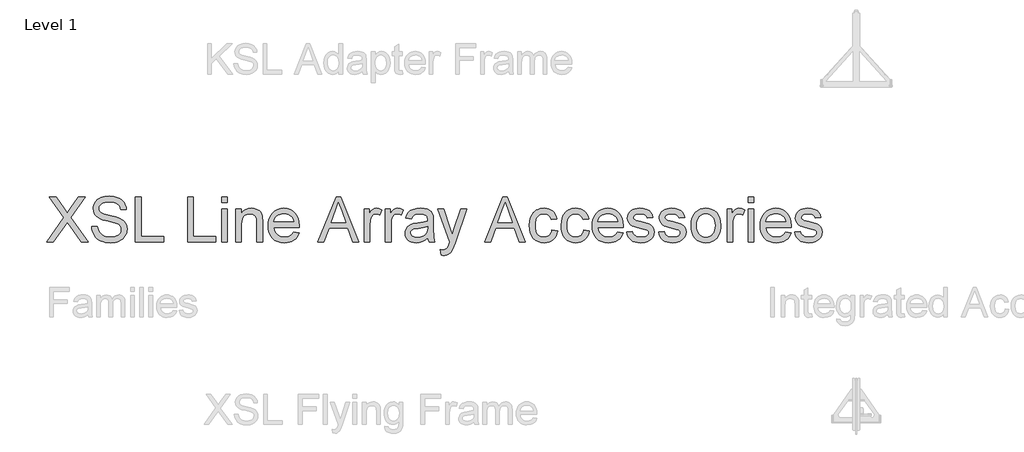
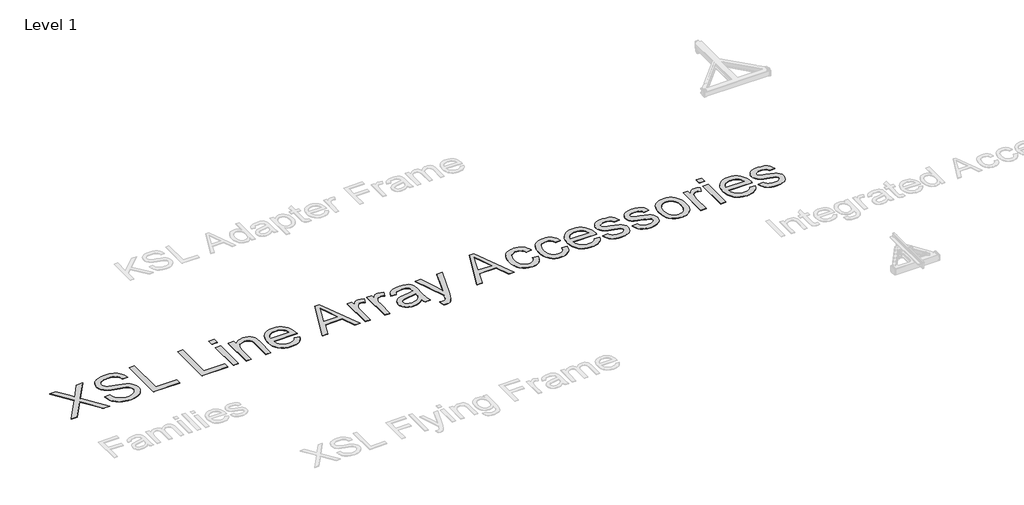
# One storey, part 16 of 52: 1 proxy.
"""IFC4 building model written with IfcOpenShell, lengths in millimetres."""

from ifc_helpers import new_model, si_unit, origin, origin_with_axes, place, context, project, spatial, polyline, outline, extrude, element, save

model = new_model("IFC4")

# Units and contexts
model_context = context("Model", 3, world=origin())
ifc_project = project(units=[si_unit("LENGTHUNIT", "METRE", prefix="MILLI")], contexts=[model_context])

# Site, building, storey
site = spatial("IfcSite", under=ifc_project)
building = spatial("IfcBuilding", under=site)
storey = spatial("IfcBuildingStorey", under=building, Name="Level 1", Elevation=0.0)

# Proxy
placement = place(None, origin())
element("IfcBuildingElementProxy", 1, Name="600mm Arial", ObjectType="600mm Arial", at=placement, inside=storey, context=model_context, shape_type="SweptSolid", body=[
    extrude(outline(polyline([(-21099.5693759, -60267.5695164), (-20867.2151077, -59939.1244711), (-21061.8982596, -59664.8316555), (-20971.5464416, -59664.8316555), (-20861.917607, -59819.1949407), (-20835.7611971, -59858.3007968), (-20824.9822547, -59879.3804351), (-20781.719332, -59818.1648711), (-20673.2677199, -59664.8316555), (-20581.5915267, -59664.8316555), (-20776.2746785, -59940.0073879), (-20543.9204104, -60267.5695164), (-20634.2722284, -60267.5695164), (-20789.076972, -60049.1947641), (-20821.3034347, -60003.8717023), (-20856.7672591, -60053.609348), (-21007.8931827, -60267.5695164), (-21099.5693759, -60267.5695164)])), origin_with_axes(), (0.0, 0.0, 1.0), 5.0),
    extrude(outline(polyline([(-20496.831515, -60060.3783767), (-20421.4892824, -60060.3783767), (-20412.8440555, -60102.1881655), (-20397.2090707, -60135.7941858), (-20372.8184944, -60162.4656304), (-20337.9064931, -60183.4716923), (-20295.2321816, -60197.1017203), (-20247.5546751, -60201.6450629), (-20205.5793394, -60198.2053662), (-20168.8279281, -60187.8862763), (-20139.0478806, -60171.5523157), (-20117.9866364, -60150.0680072), (-20105.4602544, -60125.4015194), (-20101.2847938, -60099.521021), (-20104.4117907, -60074.3027103), (-20113.7927816, -60052.505702), (-20132.849069, -60033.9092672), (-20165.0019553, -60018.2926765), (-20274.7043663, -59989.5243045), (-20346.7172669, -59970.4864112), (-20392.7944867, -59952.368223), (-20430.3000562, -59927.0211535), (-20456.8795303, -59896.3030069), (-20472.7168502, -59860.8759708), (-20477.9959568, -59821.4022327), (-20476.3634805, -59798.9660295), (-20471.4660514, -59777.2747874), (-20463.3036696, -59756.3285063), (-20451.8763352, -59736.1271862), (-20437.3128067, -59717.4939631), (-20419.7418429, -59701.2519731), (-20399.1634438, -59687.4012159), (-20375.5776094, -59675.9416918), (-20322.5658139, -59660.5458303), (-20263.8886356, -59655.4138765), (-20200.3186269, -59660.7849536), (-20144.6948692, -59676.898185), (-20120.3594752, -59688.9003351), (-20099.0039254, -59703.4224768), (-20080.6282197, -59720.4646103), (-20065.2323582, -59740.0267353), (-20052.9359026, -59761.538635), (-20043.8584143, -59784.4300922), (-20037.9998935, -59808.7011068), (-20035.3603402, -59834.3516789), (-20110.7025728, -59834.3516789), (-20115.7425562, -59810.3105905), (-20124.5349359, -59789.3964991), (-20137.0797119, -59771.6094046), (-20153.3768843, -59756.9493071), (-20173.7299557, -59745.489783), (-20198.4424287, -59737.3044086), (-20227.5143034, -59732.3931839), (-20260.9455797, -59730.7561091), (-20295.4437138, -59732.3747898), (-20324.9202586, -59737.2308322), (-20349.3752143, -59745.3242361), (-20368.8085807, -59756.6550015), (-20383.615831, -59770.2758324), (-20394.1924383, -59785.2394326), (-20400.5384027, -59801.545802), (-20402.6537242, -59819.1949407), (-20401.1546051, -59834.3792701), (-20396.6572477, -59848.1472537), (-20389.161652, -59860.4988917), (-20378.6678181, -59871.434184), (-20362.1499165, -59881.7900622), (-20336.1406595, -59892.2563049), (-20255.6480789, -59913.5198843), (-20172.5803244, -59933.7166058), (-20122.3276439, -59951.3381534), (-20079.377421, -59978.6717856), (-20062.7721474, -59994.7390318), (-20049.4134324, -60012.4065646), (-20039.1449263, -60031.5824136), (-20031.810279, -60052.1746083), (-20025.9425612, -60097.6080347), (-20027.6302198, -60121.175475), (-20032.6931958, -60144.0531365), (-20041.131489, -60166.2410194), (-20052.9450996, -60187.7391235), (-20067.9270939, -60207.7151158), (-20085.8705382, -60225.3366634), (-20106.7754325, -60240.6037662), (-20130.641777, -60253.5164242), (-20156.7751942, -60263.7849304), (-20184.481307, -60271.1195777), (-20244.6116191, -60276.9872955), (-20283.1518566, -60275.4054029), (-20318.4271414, -60270.6597252), (-20350.4374735, -60262.7502623), (-20379.1828529, -60251.6770142), (-20404.8380236, -60237.4215869), (-20427.5777294, -60219.9655863), (-20447.4019704, -60199.3090122), (-20464.3107466, -60175.4518648), (-20477.9315775, -60149.1666963), (-20487.8919825, -60121.2260587), (-20494.1919617, -60091.6299522), (-20496.831515, -60060.3783767)])), origin_with_axes(), (0.0, 0.0, 1.0), 5.0),
    extrude(outline(polyline([(-19912.9292122, -60267.5695164), (-19912.9292122, -59664.8316555), (-19837.5869796, -59664.8316555), (-19837.5869796, -60192.2272838), (-19536.2180492, -60192.2272838), (-19536.2180492, -60267.5695164), (-19912.9292122, -60267.5695164)])), origin_with_axes(), (0.0, 0.0, 1.0), 5.0),
    extrude(outline(polyline([(-19216.0135606, -60267.5695164), (-19216.0135606, -59664.8316555), (-19140.671328, -59664.8316555), (-19140.671328, -60192.2272838), (-18839.3023975, -60192.2272838), (-18839.3023975, -60267.5695164), (-19216.0135606, -60267.5695164)])), origin_with_axes(), (0.0, 0.0, 1.0), 5.0),
    extrude(outline(polyline([(-18763.9601649, -59740.1738881), (-18763.9601649, -59664.8316555), (-18688.6179323, -59664.8316555), (-18688.6179323, -59740.1738881), (-18763.9601649, -59740.1738881)])), origin_with_axes(), (0.0, 0.0, 1.0), 5.0),
    extrude(outline(polyline([(-18763.9601649, -60267.5695164), (-18763.9601649, -59824.9338998), (-18688.6179323, -59824.9338998), (-18688.6179323, -60267.5695164), (-18763.9601649, -60267.5695164)])), origin_with_axes(), (0.0, 0.0, 1.0), 5.0),
    extrude(outline(polyline([(-18575.6045834, -60267.5695164), (-18575.6045834, -59824.9338998), (-18500.2623508, -59824.9338998), (-18500.2623508, -59886.738075), (-18474.0875468, -59855.57847), (-18442.6520303, -59833.3216093), (-18405.9558013, -59819.9674929), (-18363.9988597, -59815.5161208), (-18326.8611723, -59819.1029702), (-18292.8504819, -59829.8635186), (-18264.4867801, -59846.4549965), (-18244.2900585, -59867.5346349), (-18230.5864542, -59893.0472512), (-18221.702104, -59922.9376633), (-18217.7289785, -59995.7782984), (-18217.7289785, -60267.5695164), (-18293.0712111, -60267.5695164), (-18293.0712111, -60005.9318415), (-18295.2417148, -59966.9731382), (-18301.7532262, -59939.2716239), (-18313.7645733, -59919.4243903), (-18332.4345846, -59904.0285288), (-18356.3653083, -59894.1508972), (-18384.1587931, -59890.8583534), (-18407.0364547, -59892.7069604), (-18428.2862384, -59898.2527815), (-18447.9081443, -59907.4958166), (-18465.9021724, -59920.4360658), (-18480.9347504, -59938.545057), (-18491.6723062, -59963.2943182), (-18498.1148396, -59994.6838495), (-18500.2623508, -60032.7136507), (-18500.2623508, -60267.5695164), (-18575.6045834, -60267.5695164)])), origin_with_axes(), (0.0, 0.0, 1.0), 5.0),
    extrude(outline(polyline([(-17804.2296159, -60135.7206094), (-17730.3589113, -60145.1383884), (-17741.6850782, -60174.7252979), (-17756.9751736, -60200.7989343), (-17776.2291975, -60223.3592977), (-17799.4471499, -60242.406388), (-17826.3899076, -60257.535535), (-17856.8183471, -60268.3420686), (-17890.7324685, -60274.8259888), (-17928.1322719, -60276.9872955), (-17974.8808764, -60273.2578918), (-18016.5343153, -60262.0696806), (-18053.0925886, -60243.422662), (-18084.5556962, -60217.3168359), (-18109.8567804, -60184.4787693), (-18127.9289834, -60145.6350291), (-18138.7723052, -60100.7856154), (-18142.3867459, -60049.9305281), (-18138.7355171, -59997.3509939), (-18127.7818306, -59951.0070596), (-18109.5256866, -59910.8987251), (-18083.967085, -59877.0259903), (-18052.5867508, -59850.1154224), (-18016.8654091, -59830.8935882), (-17976.8030598, -59819.3604876), (-17932.399703, -59815.5161208), (-17889.4264874, -59819.3512906), (-17850.5643532, -59830.8568), (-17815.8133002, -59850.032649), (-17785.1733285, -59876.8788375), (-17760.1619514, -59910.6779959), (-17742.296682, -59950.712754), (-17731.5775204, -59996.9831119), (-17728.0044665, -60049.4890697), (-17728.4459249, -60069.7961558), (-18067.0445132, -60069.7961558), (-18062.6805131, -60099.8613119), (-18054.0030965, -60126.1924657), (-18041.0122636, -60148.7896172), (-18023.7080142, -60167.6527665), (-18003.0468417, -60182.5243962), (-17979.9852391, -60193.1469888), (-17954.5232065, -60199.5205444), (-17926.6607439, -60201.6450629), (-17886.5616064, -60197.7087255), (-17852.7900392, -60185.8997135), (-17825.3460424, -60165.4822628), (-17804.2296159, -60135.7206094)]), holes=[polyline([(-18067.0445132, -59994.4539232), (-17803.3466991, -59994.4539232), (-17813.5370304, -59954.6490913), (-17822.3018189, -59938.9957124), (-17833.5130227, -59926.1750249), (-17854.0592321, -59910.7239811), (-17877.4381329, -59899.6875213), (-17903.6497251, -59893.0656453), (-17932.6940086, -59890.8583534), (-17959.1861108, -59892.6195884), (-17983.480118, -59897.9032936), (-18005.5760304, -59906.7094688), (-18025.4738478, -59919.0381142), (-18042.1710918, -59934.3190126), (-18054.6652841, -59951.9819469), (-18062.9564246, -59972.0269171), (-18067.0445132, -59994.4539232)])]), origin_with_axes(), (0.0, 0.0, 1.0), 5.0),
    extrude(outline(polyline([(-17477.9918626, -60267.5695164), (-17237.3970377, -59664.8316555), (-17173.2384178, -59664.8316555), (-16932.6435929, -60267.5695164), (-17012.2532567, -60267.5695164), (-17081.267919, -60079.2139349), (-17329.5146893, -60079.2139349), (-17398.3821988, -60267.5695164), (-17477.9918626, -60267.5695164)]), holes=[polyline([(-17301.8499633, -60003.8717023), (-17108.7854922, -60003.8717023), (-17163.0848747, -59855.6888346), (-17205.3177277, -59740.1738881), (-17242.8416912, -59842.7393884), (-17301.8499633, -60003.8717023)])]), origin_with_axes(), (0.0, 0.0, 1.0), 5.0),
    extrude(outline(polyline([(-16861.5687914, -60267.5695164), (-16861.5687914, -59824.9338998), (-16795.6443379, -59824.9338998), (-16795.6443379, -59890.416895), (-16771.2905498, -59852.4514731), (-16748.8497481, -59830.0842478), (-16726.33537, -59819.1581525), (-16701.7608527, -59815.5161208), (-16664.2368892, -59821.3286563), (-16626.1243145, -59838.7662628), (-16651.287443, -59906.3093972), (-16677.7749467, -59894.7211143), (-16704.2624503, -59890.8583534), (-16726.7584343, -59894.5739615), (-16746.8631853, -59905.720786), (-16763.1051754, -59923.4526981), (-16774.0128766, -59946.9235694), (-16783.1731383, -59989.0092697), (-16786.2265588, -60034.9209427), (-16786.2265588, -60267.5695164), (-16861.5687914, -60267.5695164)])), origin_with_axes(), (0.0, 0.0, 1.0), 5.0),
    extrude(outline(polyline([(-16579.0354191, -60267.5695164), (-16579.0354191, -59824.9338998), (-16513.1109656, -59824.9338998), (-16513.1109656, -59890.416895), (-16488.7571775, -59852.4514731), (-16466.3163758, -59830.0842478), (-16443.8019977, -59819.1581525), (-16419.2274804, -59815.5161208), (-16381.7035169, -59821.3286563), (-16343.5909422, -59838.7662628), (-16368.7540707, -59906.3093972), (-16395.2415744, -59894.7211143), (-16421.729078, -59890.8583534), (-16444.225062, -59894.5739615), (-16464.3298131, -59905.720786), (-16480.5718031, -59923.4526981), (-16491.4795043, -59946.9235694), (-16500.639766, -59989.0092697), (-16503.6931865, -60034.9209427), (-16503.6931865, -60267.5695164), (-16579.0354191, -60267.5695164)])), origin_with_axes(), (0.0, 0.0, 1.0), 5.0),
    extrude(outline(polyline([(-16013.9686746, -60211.062842), (-16049.9659278, -60241.9281414), (-16087.0300388, -60262.1248629), (-16126.0071362, -60273.2716874), (-16167.7433485, -60276.9872955), (-16201.289588, -60274.7524124), (-16230.706352, -60268.047763), (-16255.9936407, -60256.8733474), (-16277.1514539, -60241.2291656), (-16293.857895, -60222.1084989), (-16305.7910672, -60200.5046287), (-16312.9509706, -60176.4175551), (-16315.337605, -60149.847278), (-16311.7323615, -60118.6140966), (-16300.9166308, -60090.2503948), (-16284.2331823, -60065.9701831), (-16263.0247853, -60046.9874721), (-16238.1007801, -60032.6400743), (-16210.2705072, -60022.265802), (-16145.0818176, -60010.9350366), (-16068.0473278, -59999.0156599), (-16014.410133, -59985.0361441), (-16013.9686746, -59968.2607252), (-16019.1558107, -59934.6363108), (-16025.6397309, -59922.1835053), (-16034.7172191, -59912.6369675), (-16050.4073862, -59903.1088238), (-16069.5188558, -59896.3030069), (-16118.0057028, -59890.8583534), (-16162.8873062, -59894.481991), (-16194.2308522, -59905.352904), (-16215.6047961, -59925.457655), (-16230.5775933, -59956.7828069), (-16305.9198259, -59947.3650278), (-16292.841621, -59906.1622444), (-16273.3254812, -59873.7886288), (-16245.5503905, -59849.0301705), (-16207.6953332, -59830.672859), (-16161.3973841, -59819.3053053), (-16108.2936181, -59815.5161208), (-16057.3603559, -59818.8638469), (-16016.9853069, -59828.9070254), (-15986.5430718, -59844.0085813), (-15965.4082512, -59862.5314397), (-15951.3919472, -59885.4320939), (-15942.3052619, -59913.6670371), (-15938.6264419, -59979.5914906), (-15938.6264419, -60073.327823), (-15934.8004692, -60204.2202369), (-15929.1350865, -60236.5754583), (-15919.7908838, -60267.5695164), (-15995.1331164, -60267.5695164), (-16007.1996458, -60241.3763184), (-16013.9686746, -60211.062842)]), holes=[polyline([(-16013.9686746, -60060.3783767), (-16064.5892371, -60072.9231528), (-16135.5168858, -60083.481366), (-16200.3376933, -60095.6950483), (-16217.2050828, -60104.0459696), (-16229.6946765, -60115.560676), (-16237.4201984, -60129.3562508), (-16239.9953724, -60144.5497772), (-16234.385172, -60166.9537907), (-16217.5545707, -60185.3111023), (-16189.8714506, -60197.5615727), (-16151.7036936, -60201.6450629), (-16111.2366741, -60197.1385085), (-16075.4785442, -60183.6188451), (-16046.4894429, -60163.6980351), (-16026.3295096, -60139.9880405), (-16017.3899771, -60115.560676), (-16014.410133, -60081.7155325), (-16013.9686746, -60060.3783767)])]), origin_with_axes(), (0.0, 0.0, 1.0), 5.0),
    extrude(outline(polyline([(-15835.0308721, -60437.0895398), (-15844.4486512, -60364.5432104), (-15806.1889237, -60371.1650863), (-15786.0657785, -60369.086553), (-15770.4307938, -60362.8509532), (-15758.2538997, -60352.8997452), (-15748.5050268, -60339.6743875), (-15727.9036351, -60284.1977826), (-15722.0175232, -60265.9508356), (-15882.1197675, -59824.9338998), (-15802.6572565, -59824.9338998), (-15717.750092, -60070.6790726), (-15688.1723796, -60168.9771417), (-15658.5946672, -60082.1569909), (-15571.333058, -59824.9338998), (-15492.4591582, -59824.9338998), (-15646.5281378, -60278.1645179), (-15686.5536989, -60376.462587), (-15707.044726, -60407.8429212), (-15730.2580799, -60429.5847471), (-15757.2238301, -60442.2766759), (-15788.9720463, -60446.5073189), (-15810.7874486, -60444.1528741), (-15835.0308721, -60437.0895398)])), origin_with_axes(), (0.0, 0.0, 1.0), 5.0),
    extrude(outline(polyline([(-15255.3960005, -60267.5695164), (-15014.8011757, -59664.8316555), (-14950.6425557, -59664.8316555), (-14710.0477309, -60267.5695164), (-14789.6573946, -60267.5695164), (-14858.6720569, -60079.2139349), (-15106.9188272, -60079.2139349), (-15175.7863367, -60267.5695164), (-15255.3960005, -60267.5695164)]), holes=[polyline([(-15079.2541012, -60003.8717023), (-14886.1896301, -60003.8717023), (-14940.4890126, -59855.6888346), (-14982.7218657, -59740.1738881), (-15020.2458292, -59842.7393884), (-15079.2541012, -60003.8717023)])]), origin_with_axes(), (0.0, 0.0, 1.0), 5.0),
    extrude(outline(polyline([(-14356.4395571, -60107.4672721), (-14281.0973245, -60116.8850512), (-14289.2918959, -60152.4362475), (-14302.1033864, -60183.8947566), (-14319.5317959, -60211.2605785), (-14341.5771245, -60234.5337133), (-14367.31047, -60253.1071555), (-14395.8029306, -60266.3738999), (-14427.0545061, -60274.3339466), (-14461.0651965, -60276.9872955), (-14503.3210422, -60273.2854829), (-14541.2082892, -60262.1800452), (-14574.7269375, -60243.6709823), (-14603.876987, -60217.7582943), (-14627.4720185, -60184.9294247), (-14644.3256124, -60145.6718173), (-14654.4377688, -60099.985472), (-14657.8084875, -60047.8703889), (-14652.0511343, -59980.8238953), (-14644.8544428, -59950.6529732), (-14634.7790746, -59922.7169341), (-14621.756052, -59897.5767983), (-14605.716397, -59875.7935857), (-14586.6601097, -59857.3672962), (-14564.58719, -59842.29793), (-14540.4955178, -59830.5808885), (-14515.3829731, -59822.2115731), (-14489.2495559, -59817.1899838), (-14462.0952661, -59815.5161208), (-14428.6685883, -59817.8153832), (-14398.4332868, -59824.7131706), (-14371.3893617, -59836.209483), (-14347.5368128, -59852.3043203), (-14327.2803104, -59872.6298005), (-14311.0245248, -59896.8180417), (-14298.7694558, -59924.8690438), (-14290.5151036, -59956.7828069), (-14365.8573362, -59966.200586), (-14379.5241523, -59933.3303297), (-14400.8061257, -59909.7674879), (-14428.526034, -59895.585637), (-14461.5066549, -59890.8583534), (-14487.1066433, -59893.185207), (-14510.195837, -59900.1657678), (-14530.7742361, -59911.8000359), (-14548.8418406, -59928.0880113), (-14563.5525218, -59949.4067729), (-14574.0601513, -59976.1333998), (-14580.364729, -60008.2678921), (-14582.4662549, -60045.8102497), (-14580.4107143, -60083.9182259), (-14574.2440923, -60116.4251987), (-14563.9663891, -60143.3311681), (-14549.5776046, -60164.6361342), (-14531.868685, -60180.8275405), (-14511.6305768, -60192.3928307), (-14488.8632798, -60199.3320048), (-14463.5667941, -60201.6450629), (-14424.5529085, -60195.8693156), (-14407.6809205, -60188.6496314), (-14392.565569, -60178.5420736), (-14379.6299184, -60165.4362775), (-14369.2970328, -60149.2218786), (-14361.5669124, -60129.8988768), (-14356.4395571, -60107.4672721)])), origin_with_axes(), (0.0, 0.0, 1.0), 5.0),
    extrude(outline(polyline([(-13932.6394986, -60107.4672721), (-13857.297266, -60116.8850512), (-13865.4918375, -60152.4362475), (-13878.303328, -60183.8947566), (-13895.7317375, -60211.2605785), (-13917.777066, -60234.5337133), (-13943.5104116, -60253.1071555), (-13972.0028721, -60266.3738999), (-14003.2544476, -60274.3339466), (-14037.2651381, -60276.9872955), (-14079.5209837, -60273.2854829), (-14117.4082307, -60262.1800452), (-14150.926879, -60243.6709823), (-14180.0769286, -60217.7582943), (-14203.6719601, -60184.9294247), (-14220.525554, -60145.6718173), (-14230.6377103, -60099.985472), (-14234.0084291, -60047.8703889), (-14228.2510759, -59980.8238953), (-14221.0543843, -59950.6529732), (-14210.9790162, -59922.7169341), (-14197.9559936, -59897.5767983), (-14181.9163386, -59875.7935857), (-14162.8600512, -59857.3672962), (-14140.7871315, -59842.29793), (-14116.6954594, -59830.5808885), (-14091.5829147, -59822.2115731), (-14065.4494974, -59817.1899838), (-14038.2952077, -59815.5161208), (-14004.8685299, -59817.8153832), (-13974.6332284, -59824.7131706), (-13947.5893032, -59836.209483), (-13923.7367544, -59852.3043203), (-13903.480252, -59872.6298005), (-13887.2244663, -59896.8180417), (-13874.9693974, -59924.8690438), (-13866.7150451, -59956.7828069), (-13942.0572777, -59966.200586), (-13955.7240938, -59933.3303297), (-13977.0060673, -59909.7674879), (-14004.7259756, -59895.585637), (-14037.7065965, -59890.8583534), (-14063.3065848, -59893.185207), (-14086.3957785, -59900.1657678), (-14106.9741776, -59911.8000359), (-14125.0417821, -59928.0880113), (-14139.7524634, -59949.4067729), (-14150.2600929, -59976.1333998), (-14156.5646706, -60008.2678921), (-14158.6661965, -60045.8102497), (-14156.6106558, -60083.9182259), (-14150.4440339, -60116.4251987), (-14140.1663306, -60143.3311681), (-14125.7775461, -60164.6361342), (-14108.0686266, -60180.8275405), (-14087.8305183, -60192.3928307), (-14065.0632213, -60199.3320048), (-14039.7667356, -60201.6450629), (-14000.7528501, -60195.8693156), (-13983.880862, -60188.6496314), (-13968.7655106, -60178.5420736), (-13955.8298599, -60165.4362775), (-13945.4969744, -60149.2218786), (-13937.766854, -60129.8988768), (-13932.6394986, -60107.4672721)])), origin_with_axes(), (0.0, 0.0, 1.0), 5.0),
    extrude(outline(polyline([(-13481.4690198, -60135.7206094), (-13407.5983151, -60145.1383884), (-13418.9244821, -60174.7252979), (-13434.2145775, -60200.7989343), (-13453.4686014, -60223.3592977), (-13476.6865538, -60242.406388), (-13503.6293114, -60257.535535), (-13534.057751, -60268.3420686), (-13567.9718724, -60274.8259888), (-13605.3716757, -60276.9872955), (-13652.1202803, -60273.2578918), (-13693.7737192, -60262.0696806), (-13730.3319924, -60243.422662), (-13761.7951001, -60217.3168359), (-13787.0961843, -60184.4787693), (-13805.1683873, -60145.6350291), (-13816.0117091, -60100.7856154), (-13819.6261497, -60049.9305281), (-13815.9749209, -59997.3509939), (-13805.0212345, -59951.0070596), (-13786.7650905, -59910.8987251), (-13761.2064889, -59877.0259903), (-13729.8261547, -59850.1154224), (-13694.104813, -59830.8935882), (-13654.0424637, -59819.3604876), (-13609.6391069, -59815.5161208), (-13566.6658913, -59819.3512906), (-13527.8037571, -59830.8568), (-13493.0527041, -59850.032649), (-13462.4127324, -59876.8788375), (-13437.4013553, -59910.6779959), (-13419.5360859, -59950.712754), (-13408.8169242, -59996.9831119), (-13405.2438704, -60049.4890697), (-13405.6853288, -60069.7961558), (-13744.2839171, -60069.7961558), (-13739.9199169, -60099.8613119), (-13731.2425004, -60126.1924657), (-13718.2516674, -60148.7896172), (-13700.9474181, -60167.6527665), (-13680.2862455, -60182.5243962), (-13657.224643, -60193.1469888), (-13631.7626104, -60199.5205444), (-13603.9001478, -60201.6450629), (-13563.8010103, -60197.7087255), (-13530.0294431, -60185.8997135), (-13502.5854463, -60165.4822628), (-13481.4690198, -60135.7206094)]), holes=[polyline([(-13744.2839171, -59994.4539232), (-13480.586103, -59994.4539232), (-13490.7764342, -59954.6490913), (-13499.5412228, -59938.9957124), (-13510.7524266, -59926.1750249), (-13531.298636, -59910.7239811), (-13554.6775368, -59899.6875213), (-13580.889129, -59893.0656453), (-13609.9334125, -59890.8583534), (-13636.4255147, -59892.6195884), (-13660.7195219, -59897.9032936), (-13682.8154342, -59906.7094688), (-13702.7132517, -59919.0381142), (-13719.4104957, -59934.3190126), (-13731.904688, -59951.9819469), (-13740.1958284, -59972.0269171), (-13744.2839171, -59994.4539232)])]), origin_with_axes(), (0.0, 0.0, 1.0), 5.0),
    extrude(outline(polyline([(-13358.154975, -60135.7206094), (-13282.8127424, -60126.3028303), (-13278.2602027, -60143.4829195), (-13270.9301539, -60158.5292931), (-13260.8225961, -60171.4419511), (-13247.9375292, -60182.2208935), (-13232.2381651, -60190.7189676), (-13213.6877155, -60196.7890206), (-13168.0335599, -60201.6450629), (-13122.9312273, -60197.1936908), (-13105.4016502, -60191.6294756), (-13091.2197993, -60183.8395743), (-13072.4578175, -60164.4889814), (-13067.7673221, -60153.6548566), (-13066.2038236, -60142.0481797), (-13067.7765191, -60131.8762425), (-13072.4946057, -60122.8447395), (-13091.3669521, -60108.2030361), (-13119.5835011, -60098.6381042), (-13168.9164767, -60086.7187276), (-13237.6736216, -60066.8347058), (-13282.371284, -60049.8569517), (-13311.0844737, -60031.3340932), (-13331.8882005, -60006.8147582), (-13344.5249471, -59977.8624452), (-13348.7371959, -59946.0406526), (-13345.3526815, -59916.8492163), (-13335.1991385, -59889.9018602), (-13319.1962717, -59866.265442), (-13298.2637862, -59847.0068195), (-13277.4600593, -59834.8851078), (-13250.3655504, -59824.7131706), (-13219.0403985, -59817.8153832), (-13185.5447428, -59815.5161208), (-13136.5060729, -59819.2133348), (-13093.8685496, -59830.304977), (-13059.5819477, -59847.7057953), (-13035.5960416, -59870.330538), (-13019.7035394, -59899.8530681), (-13009.6971491, -59937.9472487), (-13085.0393818, -59947.3650278), (-13094.5491313, -59923.6550332), (-13113.3662954, -59905.7943624), (-13141.6748149, -59894.5923556), (-13179.6586309, -59890.8583534), (-13222.9215536, -59894.4268087), (-13251.763502, -59905.1321748), (-13267.987098, -59920.5832186), (-13273.3949633, -59938.3887071), (-13271.1508831, -59949.97699), (-13264.4186426, -59960.3144741), (-13252.9039362, -59969.5483121), (-13236.3124582, -59976.9427402), (-13171.4180742, -59992.9823952), (-13060.8327465, -60028.4462196), (-13031.6229161, -60045.4055795), (-13009.4764199, -60068.6189334), (-12995.5152982, -60098.1598576), (-12990.861591, -60134.1019286), (-12996.3246386, -60171.2580101), (-13012.7137815, -60206.2067996), (-13039.4036203, -60236.2075763), (-13075.7687555, -60258.5196193), (-13119.6938657, -60272.3703765), (-13169.0636295, -60276.9872955), (-13209.6134224, -60274.7616094), (-13245.0312615, -60268.0845512), (-13275.3171467, -60256.9561209), (-13300.4710781, -60241.3763184), (-13321.0172876, -60221.4187201), (-13337.4800068, -60197.1569026), (-13349.859236, -60168.5908656), (-13358.154975, -60135.7206094)])), origin_with_axes(), (0.0, 0.0, 1.0), 5.0),
    extrude(outline(polyline([(-12934.3549165, -60135.7206094), (-12859.0126839, -60126.3028303), (-12854.4601442, -60143.4829195), (-12847.1300955, -60158.5292931), (-12837.0225377, -60171.4419511), (-12824.1374708, -60182.2208935), (-12808.4381066, -60190.7189676), (-12789.887657, -60196.7890206), (-12744.2335014, -60201.6450629), (-12699.1311688, -60197.1936908), (-12681.6015917, -60191.6294756), (-12667.4197408, -60183.8395743), (-12648.6577591, -60164.4889814), (-12643.9672636, -60153.6548566), (-12642.4037652, -60142.0481797), (-12643.9764607, -60131.8762425), (-12648.6945473, -60122.8447395), (-12667.5668936, -60108.2030361), (-12695.7834427, -60098.6381042), (-12745.1164182, -60086.7187276), (-12813.8735631, -60066.8347058), (-12858.5712255, -60049.8569517), (-12887.2844153, -60031.3340932), (-12908.0881421, -60006.8147582), (-12920.7248886, -59977.8624452), (-12924.9371375, -59946.0406526), (-12921.5526231, -59916.8492163), (-12911.39908, -59889.9018602), (-12895.3962132, -59866.265442), (-12874.4637277, -59847.0068195), (-12853.6600009, -59834.8851078), (-12826.5654919, -59824.7131706), (-12795.2403401, -59817.8153832), (-12761.7446844, -59815.5161208), (-12712.7060144, -59819.2133348), (-12670.0684912, -59830.304977), (-12635.7818892, -59847.7057953), (-12611.7959832, -59870.330538), (-12595.903481, -59899.8530681), (-12585.8970907, -59937.9472487), (-12661.2393233, -59947.3650278), (-12670.7490729, -59923.6550332), (-12689.5662369, -59905.7943624), (-12717.8747565, -59894.5923556), (-12755.8585725, -59890.8583534), (-12799.1214951, -59894.4268087), (-12827.9634435, -59905.1321748), (-12844.1870395, -59920.5832186), (-12849.5949048, -59938.3887071), (-12847.3508247, -59949.97699), (-12840.6185842, -59960.3144741), (-12829.1038777, -59969.5483121), (-12812.5123997, -59976.9427402), (-12747.6180158, -59992.9823952), (-12637.032688, -60028.4462196), (-12607.8228576, -60045.4055795), (-12585.6763615, -60068.6189334), (-12571.7152398, -60098.1598576), (-12567.0615325, -60134.1019286), (-12572.5245802, -60171.2580101), (-12588.9137231, -60206.2067996), (-12615.6035618, -60236.2075763), (-12651.968697, -60258.5196193), (-12695.8938073, -60272.3703765), (-12745.263571, -60276.9872955), (-12785.8133639, -60274.7616094), (-12821.231203, -60268.0845512), (-12851.5170883, -60256.9561209), (-12876.6710197, -60241.3763184), (-12897.2172291, -60221.4187201), (-12913.6799484, -60197.1569026), (-12926.0591775, -60168.5908656), (-12934.3549165, -60135.7206094)])), origin_with_axes(), (0.0, 0.0, 1.0), 5.0),
    extrude(outline(polyline([(-12501.137079, -60046.2517081), (-12497.0627859, -59988.9264962), (-12484.8399066, -59939.5291413), (-12464.4684411, -59898.0596434), (-12435.9483895, -59864.5180025), (-12407.2351997, -59843.0796792), (-12375.5421659, -59827.7665912), (-12340.8692878, -59818.5787384), (-12303.2165656, -59815.5161208), (-12261.6504987, -59819.2455245), (-12224.0667543, -59830.4337357), (-12190.4653326, -59849.0807543), (-12160.8462335, -59875.1865804), (-12136.6717879, -59907.8682971), (-12119.4043267, -59946.2429877), (-12109.04385, -59990.3106522), (-12105.5903578, -60040.0712906), (-12107.1170681, -60080.4003543), (-12111.6971989, -60116.1860754), (-12119.3307503, -60147.4284539), (-12130.0177223, -60174.1274897), (-12143.6247576, -60197.1890922), (-12160.018499, -60217.519171), (-12179.1989465, -60235.1177259), (-12201.1661001, -60249.9847571), (-12225.0646343, -60261.7983676), (-12250.0392232, -60270.2366609), (-12276.089867, -60275.2996369), (-12303.2165656, -60276.9872955), (-12345.3896378, -60273.2716874), (-12383.3228701, -60262.1248629), (-12417.0162623, -60243.5468221), (-12446.4698145, -60217.5375651), (-12470.3867427, -60184.5385501), (-12487.4702629, -60144.9912356), (-12497.720375, -60098.8956216), (-12501.137079, -60046.2517081)]), holes=[polyline([(-12425.7948464, -60046.1045553), (-12423.6151456, -60082.649033), (-12417.0760431, -60114.2914831), (-12406.177539, -60141.0319057), (-12390.9196333, -60162.8703006), (-12372.3599866, -60179.8342591), (-12351.5562598, -60191.9513723), (-12328.5084528, -60199.2216402), (-12303.2165656, -60201.6450629), (-12278.0534371, -60199.2078447), (-12255.0976006, -60191.89619), (-12234.3490561, -60179.7100989), (-12215.8078036, -60162.6495714), (-12200.5498978, -60140.5950458), (-12189.6513937, -60113.4269604), (-12183.1122912, -60081.1453154), (-12180.9325904, -60043.7501106), (-12183.1260868, -60008.3644612), (-12189.706576, -59977.5497455), (-12200.674058, -59951.3059637), (-12216.0285328, -59929.6331157), (-12234.6387632, -59912.6691572), (-12255.3735121, -59900.5520439), (-12278.2327796, -59893.281776), (-12303.2165656, -59890.8583534), (-12328.5084528, -59893.272579), (-12351.5562598, -59900.5152557), (-12372.3599866, -59912.5863837), (-12390.9196333, -59929.4859629), (-12406.177539, -59951.2599784), (-12417.0760431, -59977.9544157), (-12423.6151456, -60009.5692747), (-12425.7948464, -60046.1045553)])]), origin_with_axes(), (0.0, 0.0, 1.0), 5.0),
    extrude(outline(polyline([(-12020.8303461, -60267.5695164), (-12020.8303461, -59824.9338998), (-11954.9058926, -59824.9338998), (-11954.9058926, -59890.416895), (-11930.5521045, -59852.4514731), (-11908.1113028, -59830.0842478), (-11885.5969247, -59819.1581525), (-11861.0224074, -59815.5161208), (-11823.4984439, -59821.3286563), (-11785.3858692, -59838.7662628), (-11810.5489977, -59906.3093972), (-11837.0365013, -59894.7211143), (-11863.524005, -59890.8583534), (-11886.019989, -59894.5739615), (-11906.12474, -59905.720786), (-11922.3667301, -59923.4526981), (-11933.2744313, -59946.9235694), (-11942.4346929, -59989.0092697), (-11945.4881135, -60034.9209427), (-11945.4881135, -60267.5695164), (-12020.8303461, -60267.5695164)])), origin_with_axes(), (0.0, 0.0, 1.0), 5.0),
    extrude(outline(polyline([(-11738.2969738, -60267.5695164), (-11738.2969738, -59824.9338998), (-11662.9547412, -59824.9338998), (-11662.9547412, -60267.5695164), (-11738.2969738, -60267.5695164)])), origin_with_axes(), (0.0, 0.0, 1.0), 5.0),
    extrude(outline(polyline([(-11738.2969738, -59740.1738881), (-11738.2969738, -59664.8316555), (-11662.9547412, -59664.8316555), (-11662.9547412, -59740.1738881), (-11738.2969738, -59740.1738881)])), origin_with_axes(), (0.0, 0.0, 1.0), 5.0),
    extrude(outline(polyline([(-11240.0375995, -60135.7206094), (-11166.1668949, -60145.1383884), (-11177.4930618, -60174.7252979), (-11192.7831573, -60200.7989343), (-11212.0371812, -60223.3592977), (-11235.2551336, -60242.406388), (-11262.1978912, -60257.535535), (-11292.6263308, -60268.3420686), (-11326.5404522, -60274.8259888), (-11363.9402555, -60276.9872955), (-11410.6888601, -60273.2578918), (-11452.342299, -60262.0696806), (-11488.9005722, -60243.422662), (-11520.3636799, -60217.3168359), (-11545.6647641, -60184.4787693), (-11563.7369671, -60145.6350291), (-11574.5802889, -60100.7856154), (-11578.1947295, -60049.9305281), (-11574.5435007, -59997.3509939), (-11563.5898143, -59951.0070596), (-11545.3336703, -59910.8987251), (-11519.7750687, -59877.0259903), (-11488.3947345, -59850.1154224), (-11452.6733928, -59830.8935882), (-11412.6110435, -59819.3604876), (-11368.2076867, -59815.5161208), (-11325.2344711, -59819.3512906), (-11286.3723368, -59830.8568), (-11251.6212839, -59850.032649), (-11220.9813122, -59876.8788375), (-11195.969935, -59910.6779959), (-11178.1046657, -59950.712754), (-11167.385504, -59996.9831119), (-11163.8124501, -60049.4890697), (-11164.2539085, -60069.7961558), (-11502.8524969, -60069.7961558), (-11498.4884967, -60099.8613119), (-11489.8110802, -60126.1924657), (-11476.8202472, -60148.7896172), (-11459.5159979, -60167.6527665), (-11438.8548253, -60182.5243962), (-11415.7932227, -60193.1469888), (-11390.3311902, -60199.5205444), (-11362.4687275, -60201.6450629), (-11322.3695901, -60197.7087255), (-11288.5980229, -60185.8997135), (-11261.1540261, -60165.4822628), (-11240.0375995, -60135.7206094)]), holes=[polyline([(-11502.8524969, -59994.4539232), (-11239.1546828, -59994.4539232), (-11249.345014, -59954.6490913), (-11258.1098026, -59938.9957124), (-11269.3210064, -59926.1750249), (-11289.8672158, -59910.7239811), (-11313.2461166, -59899.6875213), (-11339.4577087, -59893.0656453), (-11368.5019923, -59890.8583534), (-11394.9940944, -59892.6195884), (-11419.2881017, -59897.9032936), (-11441.384014, -59906.7094688), (-11461.2818314, -59919.0381142), (-11477.9790755, -59934.3190126), (-11490.4732678, -59951.9819469), (-11498.7644082, -59972.0269171), (-11502.8524969, -59994.4539232)])]), origin_with_axes(), (0.0, 0.0, 1.0), 5.0),
    extrude(outline(polyline([(-11116.7235548, -60135.7206094), (-11041.3813222, -60126.3028303), (-11036.8287825, -60143.4829195), (-11029.4987337, -60158.5292931), (-11019.3911759, -60171.4419511), (-11006.506109, -60182.2208935), (-10990.8067449, -60190.7189676), (-10972.2562953, -60196.7890206), (-10926.6021397, -60201.6450629), (-10881.499807, -60197.1936908), (-10863.97023, -60191.6294756), (-10849.7883791, -60183.8395743), (-10831.0263973, -60164.4889814), (-10826.3359019, -60153.6548566), (-10824.7724034, -60142.0481797), (-10826.3450989, -60131.8762425), (-10831.0631855, -60122.8447395), (-10849.9355319, -60108.2030361), (-10878.1520809, -60098.6381042), (-10927.4850564, -60086.7187276), (-10996.2422013, -60066.8347058), (-11040.9398638, -60049.8569517), (-11069.6530535, -60031.3340932), (-11090.4567803, -60006.8147582), (-11103.0935268, -59977.8624452), (-11107.3057757, -59946.0406526), (-11103.9212613, -59916.8492163), (-11093.7677183, -59889.9018602), (-11077.7648515, -59866.265442), (-11056.8323659, -59847.0068195), (-11036.0286391, -59834.8851078), (-11008.9341302, -59824.7131706), (-10977.6089783, -59817.8153832), (-10944.1133226, -59815.5161208), (-10895.0746527, -59819.2133348), (-10852.4371294, -59830.304977), (-10818.1505275, -59847.7057953), (-10794.1646214, -59870.330538), (-10778.2721192, -59899.8530681), (-10768.2657289, -59937.9472487), (-10843.6079615, -59947.3650278), (-10853.1177111, -59923.6550332), (-10871.9348752, -59905.7943624), (-10900.2433947, -59894.5923556), (-10938.2272107, -59890.8583534), (-10981.4901333, -59894.4268087), (-11010.3320818, -59905.1321748), (-11026.5556777, -59920.5832186), (-11031.9635431, -59938.3887071), (-11029.7194629, -59949.97699), (-11022.9872224, -59960.3144741), (-11011.4725159, -59969.5483121), (-10994.881038, -59976.9427402), (-10929.986654, -59992.9823952), (-10819.4013263, -60028.4462196), (-10790.1914958, -60045.4055795), (-10768.0449997, -60068.6189334), (-10754.083878, -60098.1598576), (-10749.4301708, -60134.1019286), (-10754.8932184, -60171.2580101), (-10771.2823613, -60206.2067996), (-10797.9722, -60236.2075763), (-10834.3373353, -60258.5196193), (-10878.2624455, -60272.3703765), (-10927.6322092, -60276.9872955), (-10968.1820022, -60274.7616094), (-11003.5998412, -60268.0845512), (-11033.8857265, -60256.9561209), (-11059.0396579, -60241.3763184), (-11079.5858674, -60221.4187201), (-11096.0485866, -60197.1569026), (-11108.4278158, -60168.5908656), (-11116.7235548, -60135.7206094)])), origin_with_axes(), (0.0, 0.0, 1.0), 5.0),
])

save(model, "model.ifc")
